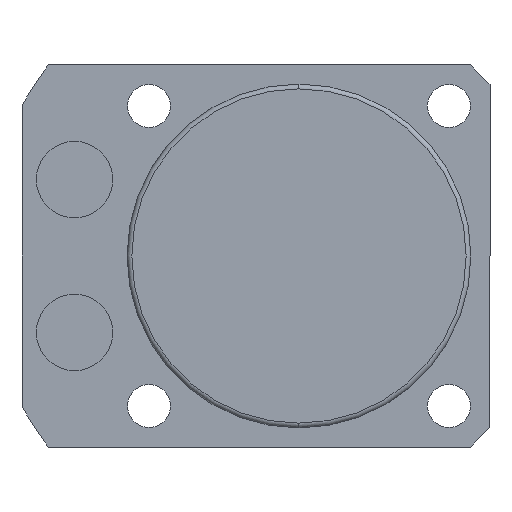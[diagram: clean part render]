
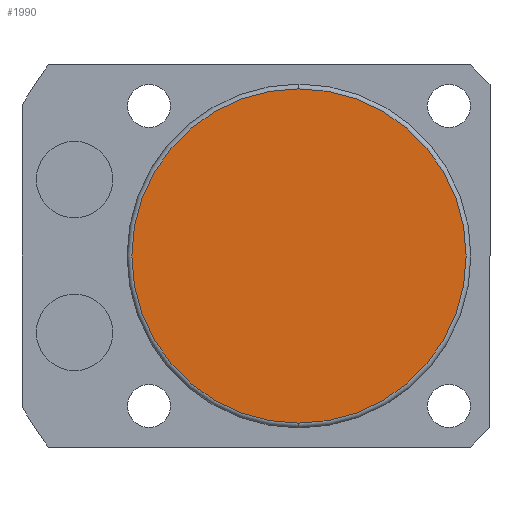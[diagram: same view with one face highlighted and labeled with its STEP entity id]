
A CAD part, front view. The second image highlights one B-rep face of the part: STEP entity #1990.
In plain terms, the highlighted planar face has unit normal (0, -1, 0).
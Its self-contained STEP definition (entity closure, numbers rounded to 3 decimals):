
#86 = EDGE_LOOP ( 'NONE', ( #1050, #2176 ) ) ;
#93 = FACE_OUTER_BOUND ( 'NONE', #86, .T. ) ;
#133 = CIRCLE ( 'NONE', #1295, 17.5 ) ;
#173 = PLANE ( 'NONE',  #887 ) ;
#425 = CARTESIAN_POINT ( 'NONE',  ( 0., -35.5, 0. ) ) ;
#458 = EDGE_CURVE ( 'NONE', #2052, #2365, #133, .T. ) ;
#726 = DIRECTION ( 'NONE',  ( 0., 0., -1. ) ) ;
#800 = DIRECTION ( 'NONE',  ( 0., 0., -1. ) ) ;
#887 = AXIS2_PLACEMENT_3D ( 'NONE', #1696, #1845, #726 ) ;
#1050 = ORIENTED_EDGE ( 'NONE', *, *, #458, .T. ) ;
#1105 = CARTESIAN_POINT ( 'NONE',  ( 0., -35.5, 17.5 ) ) ;
#1118 = AXIS2_PLACEMENT_3D ( 'NONE', #425, #1943, #800 ) ;
#1295 = AXIS2_PLACEMENT_3D ( 'NONE', #1746, #2285, #1335 ) ;
#1335 = DIRECTION ( 'NONE',  ( 0., 0., -1. ) ) ;
#1427 = CIRCLE ( 'NONE', #1118, 17.5 ) ;
#1517 = EDGE_CURVE ( 'NONE', #2365, #2052, #1427, .T. ) ;
#1696 = CARTESIAN_POINT ( 'NONE',  ( 0., -35.5, 0. ) ) ;
#1699 = CARTESIAN_POINT ( 'NONE',  ( 0., -35.5, -17.5 ) ) ;
#1746 = CARTESIAN_POINT ( 'NONE',  ( 0., -35.5, 0. ) ) ;
#1845 = DIRECTION ( 'NONE',  ( 0., -1., 0. ) ) ;
#1943 = DIRECTION ( 'NONE',  ( 0., -1., 0. ) ) ;
#1990 = ADVANCED_FACE ( 'NONE', ( #93 ), #173, .T. ) ;
#2052 = VERTEX_POINT ( 'NONE', #1699 ) ;
#2176 = ORIENTED_EDGE ( 'NONE', *, *, #1517, .T. ) ;
#2285 = DIRECTION ( 'NONE',  ( 0., -1., 0. ) ) ;
#2365 = VERTEX_POINT ( 'NONE', #1105 ) ;
